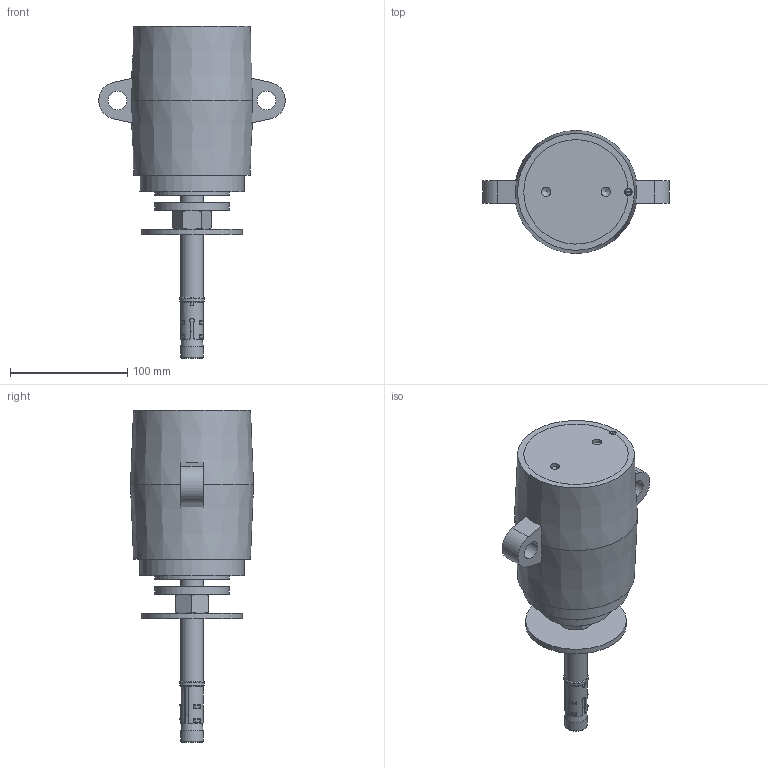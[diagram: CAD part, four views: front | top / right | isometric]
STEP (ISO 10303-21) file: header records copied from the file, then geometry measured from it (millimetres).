
FILE_DESCRIPTION(/* description */ (''),/* implementation_level */ '2;1');
FILE_NAME(/* name */ '\\Mleuckthor2\cad-proe_solids\WEBSITE FILES 05.22.13\STEP\SFFS\SFFS-NEW\SFFS-5_2INCH AIR GAP.stp',/* time_stamp */ '2016-03-02T08:14:46-05:00',/* author */ ('rramoutar'),/* organization */ ('Mason Industries Inc.'),/* preprocessor_version */ 'ST-DEVELOPER v15.6',/* originating_system */ 'Autodesk Inventor 2015',/* authorisation */ '');
FILE_SCHEMA (('CONFIG_CONTROL_DESIGN'));
Length unit declared in the file: inch
Products named in the file (1): SFFS-5
Bounding box: 158.75 x 104.78 x 282.57 mm (x, y, z)
Volume: 695028 mm3; surface area: 225795.4 mm2
Topology: 12 solids, 12 shells, 213 faces, 492 edges, 312 vertices
Faces by surface type: plane 87, cone 45, cylinder 45, bspline 25, torus 10, sphere 1
Full cylindrical faces by diameter (mm): 6.35 x1, 7.998 x2, 15.24 x1, 15.875 x3, 16.307 x2, 17.462 x1, 19.05 x2, 20.637 x4, 25.4 x1, 31.75 x2, 63.5 x4, 85.725 x1, 88.9 x2
Entity records: 6745 total; most frequent: CARTESIAN_POINT 2175, ORIENTED_EDGE 870, DIRECTION 850, EDGE_CURVE 435, AXIS2_PLACEMENT_3D 360, VERTEX_POINT 299, EDGE_LOOP 286, FACE_OUTER_BOUND 213
